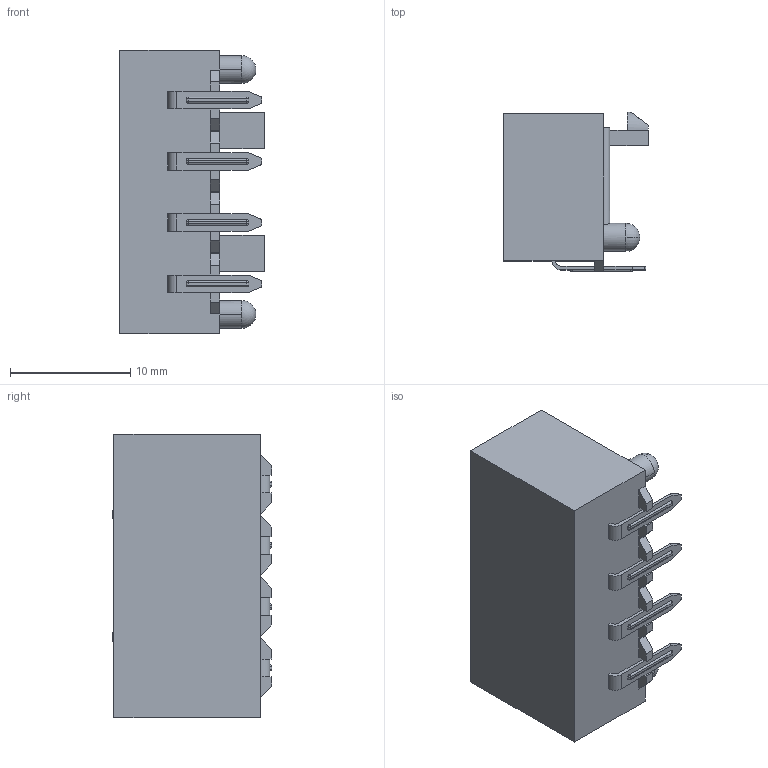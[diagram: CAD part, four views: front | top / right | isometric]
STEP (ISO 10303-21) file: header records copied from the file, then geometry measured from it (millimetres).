
FILE_DESCRIPTION (( 'STEP AP214' ), '1' );
FILE_NAME ('HC-C5080-4AW（5.08 大四P 单排 弯针-HCTL）.STEP', '2024-10-18T09:38:09', ( '' ), ( '' ), 'SwSTEP 2.0', 'SolidWorks 2022', '' );
FILE_SCHEMA (( 'AUTOMOTIVE_DESIGN' ));
Length unit declared in the file: millimetre
Products named in the file (1): HC-C5080-4AW（5.08 大四P 单排 弯针-HCTL）
Bounding box: 12 x 13.23 x 23.5 mm (x, y, z)
Volume: 1234.6 mm3; surface area: 2210.1 mm2
Topology: 1 solids, 1 shells, 239 faces, 660 edges, 408 vertices
Faces by surface type: plane 161, cylinder 58, sphere 20
Entity records: 8682 total; most frequent: CARTESIAN_POINT 1314, ORIENTED_EDGE 1280, DIRECTION 1260, EDGE_CURVE 640, LINE 488, VECTOR 488, VERTEX_POINT 408, AXIS2_PLACEMENT_3D 386
